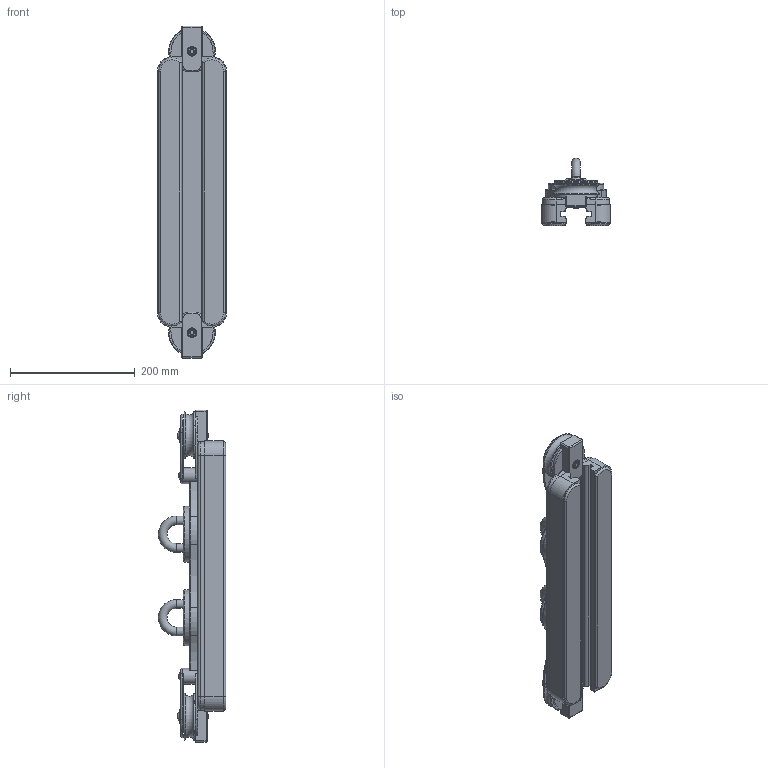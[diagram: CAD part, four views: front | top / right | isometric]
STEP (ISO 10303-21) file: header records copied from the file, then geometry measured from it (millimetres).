
FILE_DESCRIPTION(/* description */ (''),/* implementation_level */ '2;1');
FILE_NAME(/* name */ 'D:\utenti\lucade\Desktop\614.232.stp',/* time_stamp */ '2020-10-26T16:35:57+01:00',/* author */ ('lucade'),/* organization */ (''),/* preprocessor_version */ 'ST-DEVELOPER v18.1',/* originating_system */ 'Autodesk Inventor 2021',/* authorisation */ '');
FILE_SCHEMA (('AUTOMOTIVE_DESIGN { 1 0 10303 214 3 1 1 }'));
Length unit declared in the file: millimetre
Products named in the file (1): Parte13
Bounding box: 111 x 108 x 532.5 mm (x, y, z)
Volume: 2282634.8 mm3; surface area: 296766.8 mm2
Topology: 1 solids, 47 shells, 1067 faces, 2623 edges, 1659 vertices
Faces by surface type: plane 479, cylinder 371, torus 149, cone 52, bspline 12, sphere 4
Full cylindrical faces by diameter (mm): 8 x10, 8.2 x2, 8.25 x8, 10 x8, 10.2 x8, 14 x16, 15.3 x4, 15.6 x6, 15.7 x2, 16 x12, 19.9 x4, 20 x8, 23.8 x2, 24 x2, 89.5 x2
Entity records: 32019 total; most frequent: CARTESIAN_POINT 6465, DIRECTION 5643, ORIENTED_EDGE 5194, EDGE_CURVE 2597, AXIS2_PLACEMENT_3D 2219, VERTEX_POINT 1635, LINE 1205, VECTOR 1205
